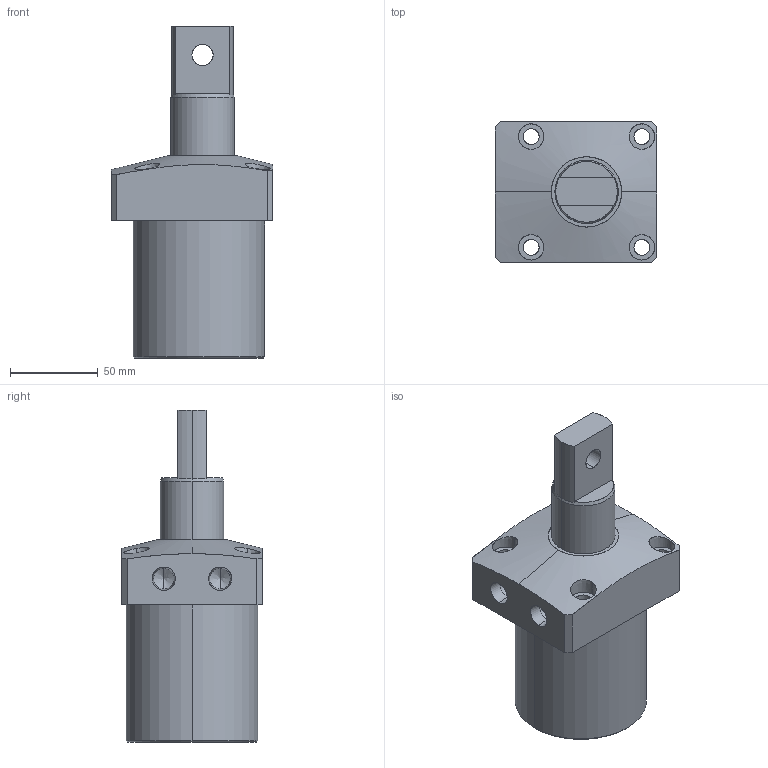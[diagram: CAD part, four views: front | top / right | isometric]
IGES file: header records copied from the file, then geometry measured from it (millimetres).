
Start section: SolidWorks IGES file using analytic representation for surfaces
Global section: file name: E:\ALL SSVT IGS MODEL\ALL-SWING-IGS\SWING-75\SC02-751-752-RH-LH-TOP-PTYPE\SC02-751RP-TOP-PTYPE.IGS; native system: SolidWorks 2019; preprocessor: SolidWorks 2019; author: SSVT; date: 210823.121424; units: millimetre
Bounding box: 92 x 80 x 189 mm (x, y, z)
Surface area: 73703.8 mm2 (no closed solid volume)
Topology: 0 solids, 0 shells, 73 faces, 1679 edges, 1675 vertices
Faces by surface type: revolution 49, bspline 24
